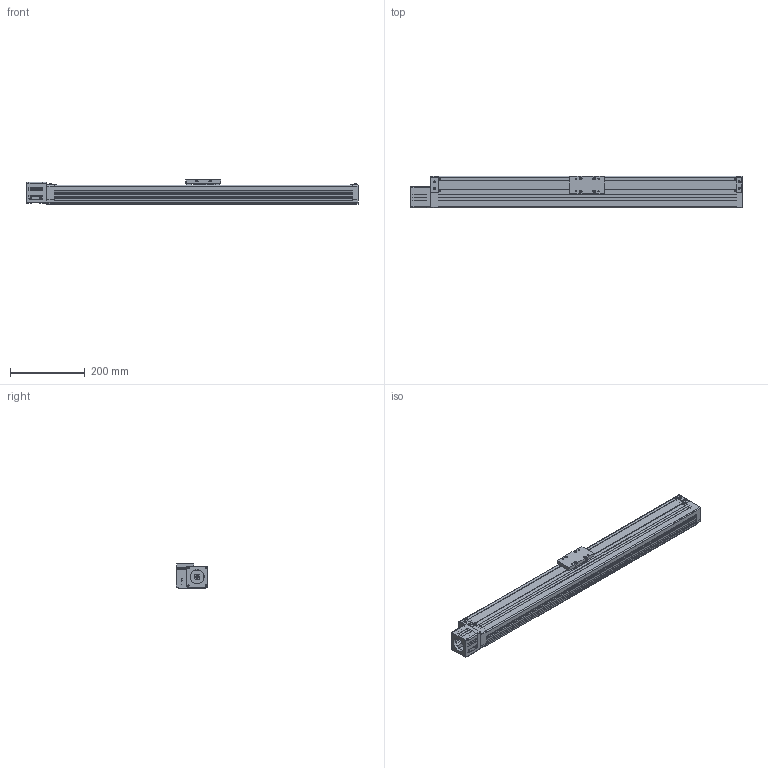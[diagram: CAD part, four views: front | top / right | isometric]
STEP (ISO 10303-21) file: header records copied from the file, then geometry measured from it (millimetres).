
FILE_DESCRIPTION((''),'2;1');
FILE_NAME('D:\製品 (図面)\カタログ用3D\SU部品\SU85×65\ダウンロード用\SU85×65-MB56\SU85×65-700-MB56.stp','2011-07-01T17:26:32',('Tsuchiya'),(''),'Autodesk Inventor 10','Autodesk Inventor 10','');
FILE_SCHEMA(('AUTOMOTIVE_DESIGN { 1 0 10303 214 1 1 1 1 }'));
Length unit declared in the file: millimetre
Products named in the file (3): SU85×65-700-MB56; SU85×65-700-MB561; SU85×65-700-MB562
Assembly tree (2 placements, depth 2):
  SU85×65-700-MB56
    SU85×65-700-MB561
    SU85×65-700-MB562
Bounding box: 891 x 85 x 65 mm (x, y, z)
Volume: 1577192.6 mm3; surface area: 556573.6 mm2
Topology: 8 solids, 8 shells, 851 faces, 2240 edges, 1450 vertices
Faces by surface type: plane 713, cylinder 106, cone 16, torus 12, bspline 4
Full cylindrical faces by diameter (mm): 3.242 x8, 4 x4, 4.134 x16, 4.5 x4, 5.5 x4, 6 x1, 7 x4, 8 x1, 11.5 x1, 12 x1, 13 x1, 38.1 x1, 43 x1
Entity records: 26014 total; most frequent: CARTESIAN_POINT 5215, ORIENTED_EDGE 4264, DIRECTION 4080, EDGE_CURVE 2132, VECTOR 1712, LINE 1712, VERTEX_POINT 1421, AXIS2_PLACEMENT_3D 1184
